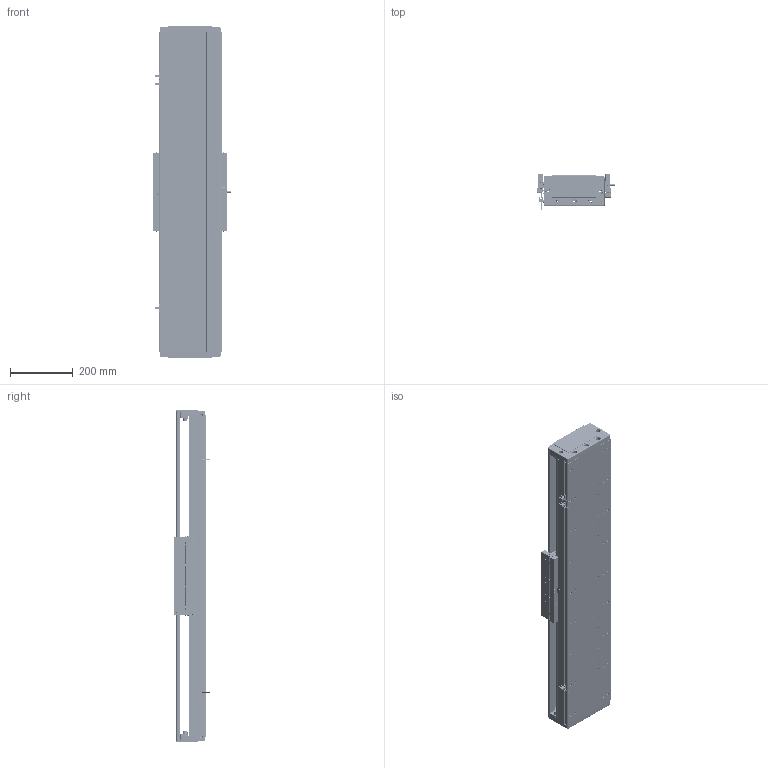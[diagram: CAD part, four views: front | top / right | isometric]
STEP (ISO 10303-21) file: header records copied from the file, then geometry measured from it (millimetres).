
FILE_DESCRIPTION (( 'STEP AP203' ), '1' );
FILE_NAME ('DA-C195-C3-T720-C010-0.2 眻盄萇儂.STEP', '2025-08-15T01:42:20', ( '' ), ( '' ), 'SwSTEP 2.0', 'SolidWorks 2019', '' );
FILE_SCHEMA (( 'CONFIG_CONTROL_DESIGN' ));
Length unit declared in the file: millimetre
Products named in the file (12): DA165-GYP-00 光电感应片(默认); MS200 棠掑喜S315-T240; CU195-C3賑輸-俋楷; DA-C195-C3-T720-C010-0.2 眻盄萇儂; IU-CU195-L-00 菁釱(L1020); DA195-DG-H-00  端盖（压铸镂空版）; LMT黍杅芛; IU-CU195-L 菁釱絳寢; 66156-0001-003-00 裔啣; PM-T45ㄗ侂狟ㄘ; DA95-HXJ-00 遣喳砎蝶; 葩璃 DA95-GT-T-00
Assembly tree (20 placements, depth 3):
  DA-C195-C3-T720-C010-0.2 眻盄萇儂
    IU-CU195-L 菁釱絳寢
      IU-CU195-L-00 菁釱(L1020)
      葩璃 DA95-GT-T-00  x4
    LMT黍杅芛
    MS200 棠掑喜S315-T240
    PM-T45ㄗ侂狟ㄘ  x3
    DA165-GYP-00 光电感应片(默认)
    DA195-DG-H-00  端盖（压铸镂空版）  x2
    DA95-HXJ-00 遣喳砎蝶  x4
    66156-0001-003-00 裔啣
    CU195-C3賑輸-俋楷
Bounding box: 248 x 115.6 x 1060 mm (x, y, z)
Volume: 7979757 mm3; surface area: 2247011.9 mm2
Topology: 78 solids, 118 shells, 5147 faces, 13168 edges, 8003 vertices
Faces by surface type: cylinder 2216, plane 1597, bspline 710, cone 544, torus 44, sphere 36
Entity records: 141671 total; most frequent: CARTESIAN_POINT 43885, ORIENTED_EDGE 20422, DIRECTION 19638, EDGE_CURVE 10211, AXIS2_PLACEMENT_3D 7299, VERTEX_POINT 6433, VECTOR 5040, LINE 5040
